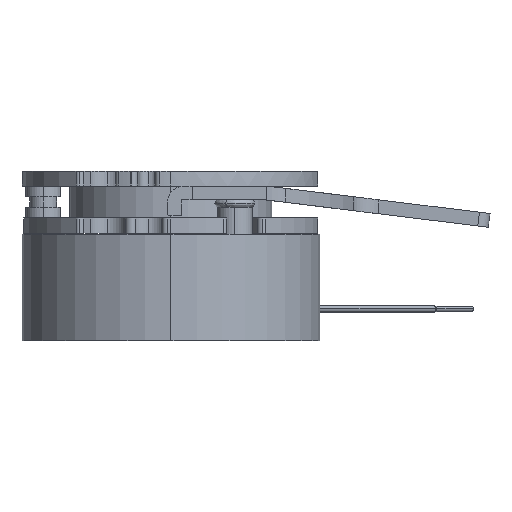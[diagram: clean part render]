
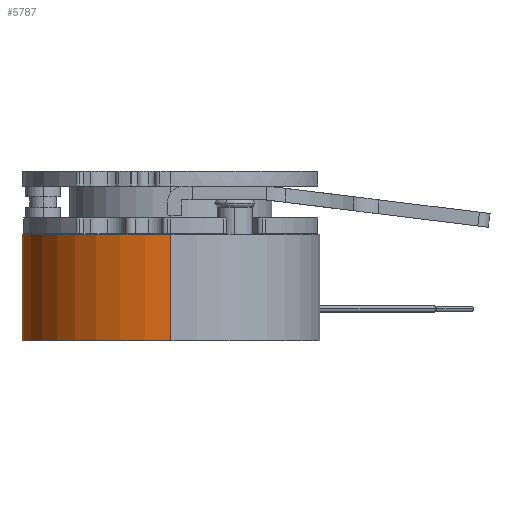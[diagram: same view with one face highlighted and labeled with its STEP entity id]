
A CAD part, left-side view. The second image highlights one B-rep face of the part: STEP entity #5787.
In plain terms, the highlighted cylindrical face has radius 28 mm (diameter 56 mm), a partial arc.
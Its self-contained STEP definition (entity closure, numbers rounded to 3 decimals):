
#1969 = EDGE_LOOP ( 'NONE', ( #11093, #11687, #11109, #3883 ) ) ;
#3593 = EDGE_CURVE ( 'NONE', #11737, #11740, #7125, .T. ) ;
#3602 = EDGE_CURVE ( 'NONE', #11740, #11739, #7102, .T. ) ;
#3618 = EDGE_CURVE ( 'NONE', #11737, #11827, #7040, .T. ) ;
#3642 = EDGE_CURVE ( 'NONE', #11739, #11827, #6930, .T. ) ;
#3883 = ORIENTED_EDGE ( 'NONE', *, *, #3618, .F. ) ;
#5787 = ADVANCED_FACE ( 'NONE', ( #7183 ), #7205, .T. ) ;
#6930 = CIRCLE ( 'NONE', #10826, 28. ) ;
#7037 = VECTOR ( 'NONE', #9084, 1000. ) ;
#7040 = LINE ( 'NONE', #9085, #7037 ) ;
#7094 = VECTOR ( 'NONE', #9131, 1000. ) ;
#7102 = LINE ( 'NONE', #9138, #7094 ) ;
#7125 = CIRCLE ( 'NONE', #10855, 28. ) ;
#7183 = FACE_OUTER_BOUND ( 'NONE', #1969, .T. ) ;
#7205 = CYLINDRICAL_SURFACE ( 'NONE', #16520, 28. ) ;
#8020 = DIRECTION ( 'NONE',  ( -1., 0., 0. ) ) ;
#8029 = CARTESIAN_POINT ( 'NONE',  ( 0., 0., 20. ) ) ;
#8043 = DIRECTION ( 'NONE',  ( 0., 0., -1. ) ) ;
#9010 = DIRECTION ( 'NONE',  ( -1., 0., 0. ) ) ;
#9011 = DIRECTION ( 'NONE',  ( 0., 0., 1. ) ) ;
#9012 = CARTESIAN_POINT ( 'NONE',  ( 0., 0., 0. ) ) ;
#9084 = DIRECTION ( 'NONE',  ( 0., 0., -1. ) ) ;
#9085 = CARTESIAN_POINT ( 'NONE',  ( -28., 0., 20. ) ) ;
#9131 = DIRECTION ( 'NONE',  ( 0., 0., -1. ) ) ;
#9138 = CARTESIAN_POINT ( 'NONE',  ( 28., 0., 20. ) ) ;
#9153 = DIRECTION ( 'NONE',  ( -1., 0., 0. ) ) ;
#9154 = DIRECTION ( 'NONE',  ( 0., 0., -1. ) ) ;
#9155 = CARTESIAN_POINT ( 'NONE',  ( 0., 0., 20. ) ) ;
#10826 = AXIS2_PLACEMENT_3D ( 'NONE', #9012, #9011, #9010 ) ;
#10855 = AXIS2_PLACEMENT_3D ( 'NONE', #9155, #9154, #9153 ) ;
#11093 = ORIENTED_EDGE ( 'NONE', *, *, #3593, .T. ) ;
#11109 = ORIENTED_EDGE ( 'NONE', *, *, #3642, .T. ) ;
#11687 = ORIENTED_EDGE ( 'NONE', *, *, #3602, .T. ) ;
#11737 = VERTEX_POINT ( 'NONE', #13373 ) ;
#11739 = VERTEX_POINT ( 'NONE', #13375 ) ;
#11740 = VERTEX_POINT ( 'NONE', #13376 ) ;
#11827 = VERTEX_POINT ( 'NONE', #13463 ) ;
#13373 = CARTESIAN_POINT ( 'NONE',  ( -28., 0., 20. ) ) ;
#13375 = CARTESIAN_POINT ( 'NONE',  ( 28., 0., 0. ) ) ;
#13376 = CARTESIAN_POINT ( 'NONE',  ( 28., 0., 20. ) ) ;
#13463 = CARTESIAN_POINT ( 'NONE',  ( -28., 0., 0. ) ) ;
#16520 = AXIS2_PLACEMENT_3D ( 'NONE', #8029, #8043, #8020 ) ;
